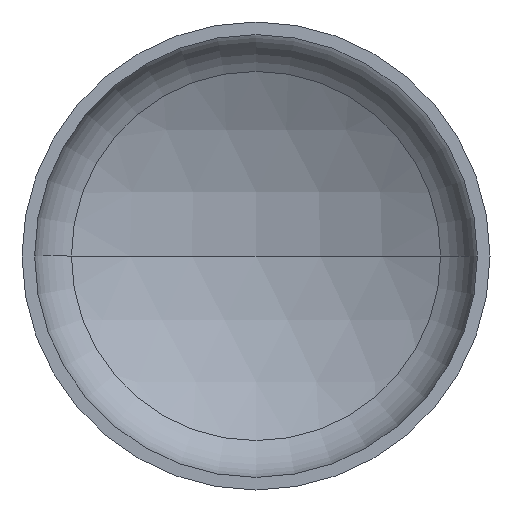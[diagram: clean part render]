
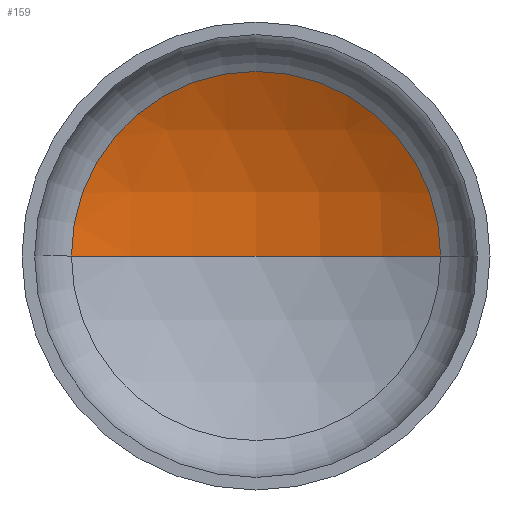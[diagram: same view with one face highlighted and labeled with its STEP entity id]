
A CAD part, front view. The second image highlights one B-rep face of the part: STEP entity #159.
In plain terms, the highlighted spherical face has radius 1600 mm.
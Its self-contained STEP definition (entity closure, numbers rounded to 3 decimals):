
#6 = ORIENTED_EDGE ( 'NONE', *, *, #207, .T. ) ;
#34 = VERTEX_POINT ( 'NONE', #398 ) ;
#44 = EDGE_LOOP ( 'NONE', ( #60, #52, #6 ) ) ;
#49 = DIRECTION ( 'NONE',  ( 1., 0., 0. ) ) ;
#52 = ORIENTED_EDGE ( 'NONE', *, *, #211, .T. ) ;
#60 = ORIENTED_EDGE ( 'NONE', *, *, #214, .F. ) ;
#71 = VERTEX_POINT ( 'NONE', #131 ) ;
#107 = AXIS2_PLACEMENT_3D ( 'NONE', #257, #178, #49 ) ;
#110 = SPHERICAL_SURFACE ( 'NONE', #158, 1600. ) ;
#112 = AXIS2_PLACEMENT_3D ( 'NONE', #179, #404, #149 ) ;
#119 = AXIS2_PLACEMENT_3D ( 'NONE', #256, #379, #358 ) ;
#131 = CARTESIAN_POINT ( 'NONE',  ( 0., 597.679, 0. ) ) ;
#149 = DIRECTION ( 'NONE',  ( -1., 0., 0. ) ) ;
#158 = AXIS2_PLACEMENT_3D ( 'NONE', #204, #289, #174 ) ;
#159 = ADVANCED_FACE ( 'NONE', ( #392 ), #110, .F. ) ;
#170 = CIRCLE ( 'NONE', #107, 1600. ) ;
#174 = DIRECTION ( 'NONE',  ( -1., 0., 0. ) ) ;
#178 = DIRECTION ( 'NONE',  ( 0., 0., 1. ) ) ;
#179 = CARTESIAN_POINT ( 'NONE',  ( 0., -1002.321, 0. ) ) ;
#204 = CARTESIAN_POINT ( 'NONE',  ( 0., -1002.321, 0. ) ) ;
#207 = EDGE_CURVE ( 'NONE', #278, #34, #370, .T. ) ;
#211 = EDGE_CURVE ( 'NONE', #71, #278, #307, .T. ) ;
#214 = EDGE_CURVE ( 'NONE', #71, #34, #170, .T. ) ;
#256 = CARTESIAN_POINT ( 'NONE',  ( 0., 389.705, 0. ) ) ;
#257 = CARTESIAN_POINT ( 'NONE',  ( 0., -1002.321, 0. ) ) ;
#278 = VERTEX_POINT ( 'NONE', #303 ) ;
#289 = DIRECTION ( 'NONE',  ( 0., 0., -1. ) ) ;
#303 = CARTESIAN_POINT ( 'NONE',  ( 788.837, 389.705, 0. ) ) ;
#307 = CIRCLE ( 'NONE', #112, 1600. ) ;
#358 = DIRECTION ( 'NONE',  ( 1., 0., 0. ) ) ;
#370 = CIRCLE ( 'NONE', #119, 788.837 ) ;
#379 = DIRECTION ( 'NONE',  ( 0., -1., 0. ) ) ;
#392 = FACE_OUTER_BOUND ( 'NONE', #44, .T. ) ;
#398 = CARTESIAN_POINT ( 'NONE',  ( -788.837, 389.705, 0. ) ) ;
#404 = DIRECTION ( 'NONE',  ( 0., 0., -1. ) ) ;
